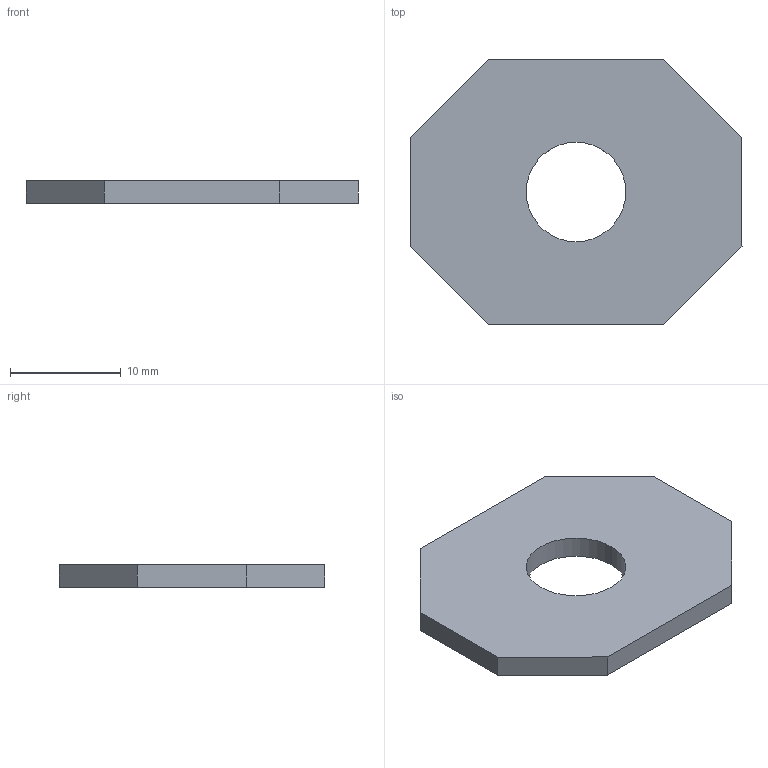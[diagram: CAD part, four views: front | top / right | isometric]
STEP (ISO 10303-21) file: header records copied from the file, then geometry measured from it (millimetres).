
FILE_DESCRIPTION(('CATIA V5 STEP Exchange'),'2;1');
FILE_NAME('E:\吉利商用车G3\3D\新开件\lyl\SHT0015438.stp','2023-01-29T10:02:52+00:00',('none'),('none'),'CATIA Version 5 Release 20 GA (IN-10)','CATIA V5 STEP AP214','none');
FILE_SCHEMA(('AUTOMOTIVE_DESIGN { 1 0 10303 214 1 1 1 1 }'));
Length unit declared in the file: millimetre
Products named in the file (1): BD_AllCATPart
Bounding box: 30 x 24 x 2 mm (x, y, z)
Volume: 1112.9 mm3; surface area: 1352.3 mm2
Topology: 1 solids, 1 shells, 12 faces, 30 edges, 20 vertices
Faces by surface type: plane 10, cylinder 2
Entity records: 374 total; most frequent: CARTESIAN_POINT 69, ORIENTED_EDGE 60, DIRECTION 48, EDGE_CURVE 30, VECTOR 20, LINE 20, VERTEX_POINT 20, AXIS2_PLACEMENT_3D 17
